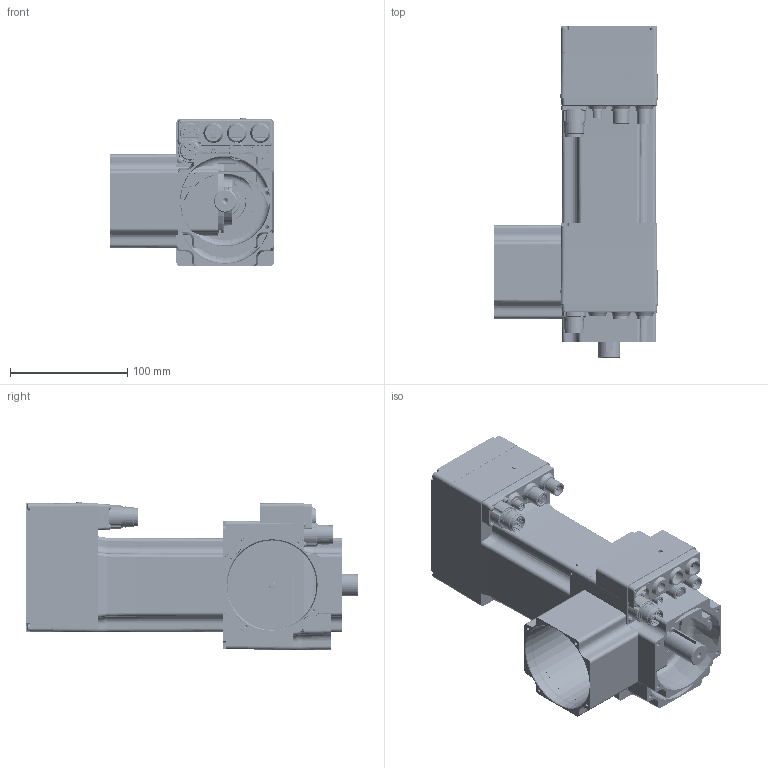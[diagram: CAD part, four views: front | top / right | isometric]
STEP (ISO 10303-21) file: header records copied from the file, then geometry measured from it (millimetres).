
FILE_DESCRIPTION( ( 'Unknown' ), '1' );
FILE_NAME( 'C:/Users/dotti/Desktop/Q0B214/Q0B214_2,8.stp', 'Unknown', ( 'Unknown' ), ( 'Unknown' ), 'PSStep 14.0', 'Unknown', ' ' );
FILE_SCHEMA( ( 'AUTOMOTIVE_DESIGN { 1 0 10303 214 1 1 1 1 }' ) );
Length unit declared in the file: millimetre
Products named in the file (45): T00273; Assem1; 005117000974; N54236; CN M23 PAN-POT BEGA 906 4+5p; VECST-8112 M  2,5 x 12; 005117000476; G00030; LI-PIA   6x6 x 30; CUSC_15_32_9_6002_ZZ; CUSC_20_42_12_6004_ZZ; a-ela  20; Anello-elastico-chiuso  42; N09280; 003251021084; anello-elastico-chiuso  32; Vite a brugola testa cil 8,8 -  M  3 x 25; Vite a brugola testa cil 8,8 -  M  3 x 25-oa0; Vite a brugola testa cil 8,8 -  M  3 x 25-oa1; Vite a brugola testa cil 8,8 -  M  3 x 25-oa2; Vite a brugola testa cil 8,8 -  M  3 x 40; Vite a brugola testa cil 8,8 -  M  3 x 40-oa3; Vite a brugola testa cil 8,8 -  M  3 x 40-oa4; Vite a brugola testa cil 8,8 -  M  3 x 40-oa5; N35217; VECST-8112 M  3 x 30; 003016000054; N01380; N54239
Bounding box: 139.5 x 282.93 x 126.21 mm (x, y, z)
Volume: 1177074.8 mm3; surface area: 581712.9 mm2
Topology: 102 solids, 106 shells, 7389 faces, 20057 edges, 13153 vertices
Faces by surface type: plane 4045, cylinder 2521, bspline 283, cone 278, torus 209, sphere 53
Full cylindrical faces by diameter (mm): 1 x39, 1.5 x42, 1.7 x30, 2 x4, 2.4 x24, 2.459 x44, 2.5 x17, 2.7 x12, 3 x21, 3.5 x34, 4 x5, 4.2 x2, 4.917 x2, 5 x11, 5.5 x16, 6 x28, 8 x17, 8.5 x9, 8.75 x3, 9 x6, 10 x3, 11 x15, 11.9 x6, 12 x9, 14 x6, 14.4 x3, 14.5 x3, 15 x4, 15.6 x3, 16 x3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
Entity records: 104220 total; most frequent: CARTESIAN_POINT 27216, ORIENTED_EDGE 13346, DIRECTION 13235, EDGE_CURVE 6673, AXIS2_PLACEMENT_3D 4760, VERTEX_POINT 4564, LINE 3715, VECTOR 3715
